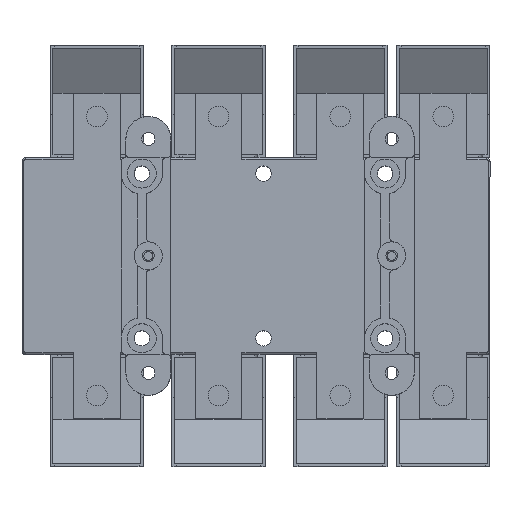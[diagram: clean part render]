
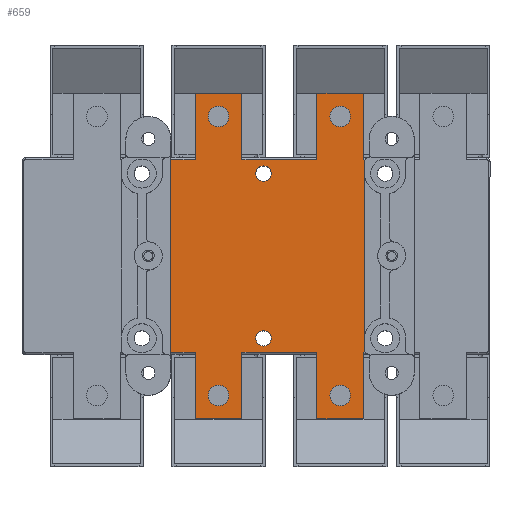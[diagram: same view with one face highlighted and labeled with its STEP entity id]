
A CAD part, top view. The second image highlights one B-rep face of the part: STEP entity #659.
In plain terms, the highlighted planar face has unit normal (0, 0, 1).
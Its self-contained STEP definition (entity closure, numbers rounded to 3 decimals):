
#65=FACE_BOUND('',#1884,.T.);
#66=FACE_BOUND('',#1885,.T.);
#67=FACE_BOUND('',#1886,.T.);
#68=FACE_BOUND('',#1887,.T.);
#69=FACE_BOUND('',#1888,.T.);
#70=FACE_BOUND('',#1889,.T.);
#71=FACE_BOUND('',#1890,.T.);
#373=CIRCLE('',#9405,5.5);
#374=CIRCLE('',#9406,5.5);
#375=CIRCLE('',#9407,5.5);
#376=CIRCLE('',#9408,5.5);
#377=CIRCLE('',#9409,4.1);
#378=CIRCLE('',#9410,4.1);
#379=CIRCLE('',#9411,2.);
#380=CIRCLE('',#9412,2.);
#659=ADVANCED_FACE('',(#65,#66,#67,#68,#69,#70,#71),#1135,.F.);
#1135=PLANE('',#9413);
#1884=EDGE_LOOP('',(#2595));
#1885=EDGE_LOOP('',(#2596));
#1886=EDGE_LOOP('',(#2597));
#1887=EDGE_LOOP('',(#2598));
#1888=EDGE_LOOP('',(#2599));
#1889=EDGE_LOOP('',(#2600));
#1890=EDGE_LOOP('',(#2601,#2602,#2603,#2604,#2605,#2606,#2607,#2608,#2609,
#2610,#2611,#2612,#2613,#2614,#2615,#2616,#2617,#2618,#2619,#2620,#2621,
#2622));
#2595=ORIENTED_EDGE('',*,*,#6125,.T.);
#2596=ORIENTED_EDGE('',*,*,#6126,.T.);
#2597=ORIENTED_EDGE('',*,*,#6127,.T.);
#2598=ORIENTED_EDGE('',*,*,#6128,.T.);
#2599=ORIENTED_EDGE('',*,*,#6129,.F.);
#2600=ORIENTED_EDGE('',*,*,#6130,.F.);
#2601=ORIENTED_EDGE('',*,*,#6131,.F.);
#2602=ORIENTED_EDGE('',*,*,#6132,.T.);
#2603=ORIENTED_EDGE('',*,*,#6133,.F.);
#2604=ORIENTED_EDGE('',*,*,#6134,.F.);
#2605=ORIENTED_EDGE('',*,*,#6135,.F.);
#2606=ORIENTED_EDGE('',*,*,#6136,.T.);
#2607=ORIENTED_EDGE('',*,*,#6137,.T.);
#2608=ORIENTED_EDGE('',*,*,#6138,.T.);
#2609=ORIENTED_EDGE('',*,*,#6139,.T.);
#2610=ORIENTED_EDGE('',*,*,#6140,.T.);
#2611=ORIENTED_EDGE('',*,*,#6141,.T.);
#2612=ORIENTED_EDGE('',*,*,#6142,.T.);
#2613=ORIENTED_EDGE('',*,*,#6143,.T.);
#2614=ORIENTED_EDGE('',*,*,#6144,.T.);
#2615=ORIENTED_EDGE('',*,*,#6145,.T.);
#2616=ORIENTED_EDGE('',*,*,#6146,.T.);
#2617=ORIENTED_EDGE('',*,*,#6147,.T.);
#2618=ORIENTED_EDGE('',*,*,#6148,.T.);
#2619=ORIENTED_EDGE('',*,*,#6149,.F.);
#2620=ORIENTED_EDGE('',*,*,#6150,.F.);
#2621=ORIENTED_EDGE('',*,*,#6151,.F.);
#2622=ORIENTED_EDGE('',*,*,#6152,.T.);
#5233=VERTEX_POINT('',#13041);
#5234=VERTEX_POINT('',#13043);
#5235=VERTEX_POINT('',#13045);
#5236=VERTEX_POINT('',#13047);
#5237=VERTEX_POINT('',#13049);
#5238=VERTEX_POINT('',#13051);
#5239=VERTEX_POINT('',#13053);
#5240=VERTEX_POINT('',#13054);
#5241=VERTEX_POINT('',#13056);
#5242=VERTEX_POINT('',#13058);
#5243=VERTEX_POINT('',#13060);
#5244=VERTEX_POINT('',#13062);
#5245=VERTEX_POINT('',#13064);
#5246=VERTEX_POINT('',#13066);
#5247=VERTEX_POINT('',#13068);
#5248=VERTEX_POINT('',#13070);
#5249=VERTEX_POINT('',#13072);
#5250=VERTEX_POINT('',#13074);
#5251=VERTEX_POINT('',#13076);
#5252=VERTEX_POINT('',#13078);
#5253=VERTEX_POINT('',#13080);
#5254=VERTEX_POINT('',#13082);
#5255=VERTEX_POINT('',#13084);
#5256=VERTEX_POINT('',#13086);
#5257=VERTEX_POINT('',#13088);
#5258=VERTEX_POINT('',#13090);
#5259=VERTEX_POINT('',#13092);
#5260=VERTEX_POINT('',#13094);
#6125=EDGE_CURVE('',#5233,#5233,#373,.T.);
#6126=EDGE_CURVE('',#5234,#5234,#374,.T.);
#6127=EDGE_CURVE('',#5235,#5235,#375,.T.);
#6128=EDGE_CURVE('',#5236,#5236,#376,.T.);
#6129=EDGE_CURVE('',#5237,#5237,#377,.T.);
#6130=EDGE_CURVE('',#5238,#5238,#378,.T.);
#6131=EDGE_CURVE('',#5239,#5240,#7418,.T.);
#6132=EDGE_CURVE('',#5239,#5241,#7419,.T.);
#6133=EDGE_CURVE('',#5242,#5241,#7420,.T.);
#6134=EDGE_CURVE('',#5243,#5242,#7421,.T.);
#6135=EDGE_CURVE('',#5244,#5243,#7422,.T.);
#6136=EDGE_CURVE('',#5244,#5245,#7423,.T.);
#6137=EDGE_CURVE('',#5245,#5246,#7424,.T.);
#6138=EDGE_CURVE('',#5246,#5247,#7425,.T.);
#6139=EDGE_CURVE('',#5247,#5248,#7426,.T.);
#6140=EDGE_CURVE('',#5248,#5249,#7427,.T.);
#6141=EDGE_CURVE('',#5249,#5250,#379,.T.);
#6142=EDGE_CURVE('',#5250,#5251,#7428,.T.);
#6143=EDGE_CURVE('',#5251,#5252,#380,.T.);
#6144=EDGE_CURVE('',#5252,#5253,#7429,.T.);
#6145=EDGE_CURVE('',#5253,#5254,#7430,.T.);
#6146=EDGE_CURVE('',#5254,#5255,#7431,.T.);
#6147=EDGE_CURVE('',#5255,#5256,#7432,.T.);
#6148=EDGE_CURVE('',#5256,#5257,#7433,.T.);
#6149=EDGE_CURVE('',#5258,#5257,#7434,.T.);
#6150=EDGE_CURVE('',#5259,#5258,#7435,.T.);
#6151=EDGE_CURVE('',#5260,#5259,#7436,.T.);
#6152=EDGE_CURVE('',#5260,#5240,#7437,.T.);
#7418=LINE('',#13052,#8435);
#7419=LINE('',#13055,#8436);
#7420=LINE('',#13057,#8437);
#7421=LINE('',#13059,#8438);
#7422=LINE('',#13061,#8439);
#7423=LINE('',#13063,#8440);
#7424=LINE('',#13065,#8441);
#7425=LINE('',#13067,#8442);
#7426=LINE('',#13069,#8443);
#7427=LINE('',#13071,#8444);
#7428=LINE('',#13075,#8445);
#7429=LINE('',#13079,#8446);
#7430=LINE('',#13081,#8447);
#7431=LINE('',#13083,#8448);
#7432=LINE('',#13085,#8449);
#7433=LINE('',#13087,#8450);
#7434=LINE('',#13089,#8451);
#7435=LINE('',#13091,#8452);
#7436=LINE('',#13093,#8453);
#7437=LINE('',#13095,#8454);
#8435=VECTOR('',#10375,1.);
#8436=VECTOR('',#10376,1.);
#8437=VECTOR('',#10377,1.);
#8438=VECTOR('',#10378,1.);
#8439=VECTOR('',#10379,1.);
#8440=VECTOR('',#10380,1.);
#8441=VECTOR('',#10381,1.);
#8442=VECTOR('',#10382,1.);
#8443=VECTOR('',#10383,1.);
#8444=VECTOR('',#10384,1.);
#8445=VECTOR('',#10387,1.);
#8446=VECTOR('',#10390,1.);
#8447=VECTOR('',#10391,1.);
#8448=VECTOR('',#10392,1.);
#8449=VECTOR('',#10393,1.);
#8450=VECTOR('',#10394,1.);
#8451=VECTOR('',#10395,1.);
#8452=VECTOR('',#10396,1.);
#8453=VECTOR('',#10397,1.);
#8454=VECTOR('',#10398,1.);
#9405=AXIS2_PLACEMENT_3D('',#13040,#10363,#10364);
#9406=AXIS2_PLACEMENT_3D('',#13042,#10365,#10366);
#9407=AXIS2_PLACEMENT_3D('',#13044,#10367,#10368);
#9408=AXIS2_PLACEMENT_3D('',#13046,#10369,#10370);
#9409=AXIS2_PLACEMENT_3D('',#13048,#10371,#10372);
#9410=AXIS2_PLACEMENT_3D('',#13050,#10373,#10374);
#9411=AXIS2_PLACEMENT_3D('',#13073,#10385,#10386);
#9412=AXIS2_PLACEMENT_3D('',#13077,#10388,#10389);
#9413=AXIS2_PLACEMENT_3D('',#13096,#10399,#10400);
#10363=DIRECTION('',(0.,0.,-1.));
#10364=DIRECTION('',(-1.,0.,0.));
#10365=DIRECTION('',(0.,0.,-1.));
#10366=DIRECTION('',(-1.,0.,0.));
#10367=DIRECTION('',(0.,0.,-1.));
#10368=DIRECTION('',(-1.,0.,0.));
#10369=DIRECTION('',(0.,0.,-1.));
#10370=DIRECTION('',(-1.,0.,0.));
#10371=DIRECTION('',(0.,0.,1.));
#10372=DIRECTION('',(-1.,0.,0.));
#10373=DIRECTION('',(0.,0.,1.));
#10374=DIRECTION('',(-1.,0.,0.));
#10375=DIRECTION('',(0.,1.,0.));
#10376=DIRECTION('',(1.,0.,0.));
#10377=DIRECTION('',(0.,1.,0.));
#10378=DIRECTION('',(-1.,0.,0.));
#10379=DIRECTION('',(0.,-1.,0.));
#10380=DIRECTION('',(1.,0.,0.));
#10381=DIRECTION('',(0.,-1.,0.));
#10382=DIRECTION('',(1.,0.,0.));
#10383=DIRECTION('',(0.,1.,0.));
#10384=DIRECTION('',(1.,0.,0.));
#10385=DIRECTION('',(0.,0.,-1.));
#10386=DIRECTION('',(-1.,0.,0.));
#10387=DIRECTION('',(0.,1.,0.));
#10388=DIRECTION('',(0.,0.,-1.));
#10389=DIRECTION('',(-1.,0.,0.));
#10390=DIRECTION('',(-1.,0.,0.));
#10391=DIRECTION('',(0.,1.,0.));
#10392=DIRECTION('',(-1.,0.,0.));
#10393=DIRECTION('',(0.,-1.,0.));
#10394=DIRECTION('',(-1.,0.,0.));
#10395=DIRECTION('',(0.,-1.,0.));
#10396=DIRECTION('',(1.,0.,0.));
#10397=DIRECTION('',(0.,1.,0.));
#10398=DIRECTION('',(-1.,0.,0.));
#10399=DIRECTION('',(0.,0.,-1.));
#10400=DIRECTION('',(-1.,0.,0.));
#13040=CARTESIAN_POINT('',(-27.5,74.5,0.));
#13041=CARTESIAN_POINT('',(-33.,74.5,0.));
#13042=CARTESIAN_POINT('',(-92.5,74.5,0.));
#13043=CARTESIAN_POINT('',(-98.,74.5,0.));
#13044=CARTESIAN_POINT('',(-92.5,-74.5,0.));
#13045=CARTESIAN_POINT('',(-98.,-74.5,0.));
#13046=CARTESIAN_POINT('',(-27.5,-74.5,0.));
#13047=CARTESIAN_POINT('',(-33.,-74.5,0.));
#13048=CARTESIAN_POINT('',(-68.5,44.,0.));
#13049=CARTESIAN_POINT('',(-72.6,44.,0.));
#13050=CARTESIAN_POINT('',(-68.5,-44.,0.));
#13051=CARTESIAN_POINT('',(-72.6,-44.,0.));
#13052=CARTESIAN_POINT('',(-118.,62.5,0.));
#13053=CARTESIAN_POINT('',(-118.,-51.5,0.));
#13054=CARTESIAN_POINT('',(-118.,51.5,0.));
#13055=CARTESIAN_POINT('',(-12.5,-51.5,0.));
#13056=CARTESIAN_POINT('',(-105.,-51.5,0.));
#13057=CARTESIAN_POINT('',(-105.,-87.,0.));
#13058=CARTESIAN_POINT('',(-105.,-87.,0.));
#13059=CARTESIAN_POINT('',(-80.,-87.,0.));
#13060=CARTESIAN_POINT('',(-80.,-87.,0.));
#13061=CARTESIAN_POINT('',(-80.,87.,0.));
#13062=CARTESIAN_POINT('',(-80.,-51.5,0.));
#13063=CARTESIAN_POINT('',(-12.5,-51.5,0.));
#13064=CARTESIAN_POINT('',(-40.,-51.5,0.));
#13065=CARTESIAN_POINT('',(-40.,87.,0.));
#13066=CARTESIAN_POINT('',(-40.,-87.,0.));
#13067=CARTESIAN_POINT('',(-40.,-87.,0.));
#13068=CARTESIAN_POINT('',(-15.,-87.,0.));
#13069=CARTESIAN_POINT('',(-15.,-87.,0.));
#13070=CARTESIAN_POINT('',(-15.,-51.5,0.));
#13071=CARTESIAN_POINT('',(-12.5,-51.5,0.));
#13072=CARTESIAN_POINT('',(-14.232,-51.5,0.));
#13073=CARTESIAN_POINT('',(-12.5,-50.5,0.));
#13074=CARTESIAN_POINT('',(-14.5,-50.5,0.));
#13075=CARTESIAN_POINT('',(-14.5,62.5,0.));
#13076=CARTESIAN_POINT('',(-14.5,50.5,0.));
#13077=CARTESIAN_POINT('',(-12.5,50.5,0.));
#13078=CARTESIAN_POINT('',(-14.232,51.5,0.));
#13079=CARTESIAN_POINT('',(-195.5,51.5,0.));
#13080=CARTESIAN_POINT('',(-15.,51.5,0.));
#13081=CARTESIAN_POINT('',(-15.,-87.,0.));
#13082=CARTESIAN_POINT('',(-15.,87.,0.));
#13083=CARTESIAN_POINT('',(-15.,87.,0.));
#13084=CARTESIAN_POINT('',(-40.,87.,0.));
#13085=CARTESIAN_POINT('',(-40.,87.,0.));
#13086=CARTESIAN_POINT('',(-40.,51.5,0.));
#13087=CARTESIAN_POINT('',(-195.5,51.5,0.));
#13088=CARTESIAN_POINT('',(-80.,51.5,0.));
#13089=CARTESIAN_POINT('',(-80.,87.,0.));
#13090=CARTESIAN_POINT('',(-80.,87.,0.));
#13091=CARTESIAN_POINT('',(-105.,87.,0.));
#13092=CARTESIAN_POINT('',(-105.,87.,0.));
#13093=CARTESIAN_POINT('',(-105.,-87.,0.));
#13094=CARTESIAN_POINT('',(-105.,51.5,0.));
#13095=CARTESIAN_POINT('',(-195.5,51.5,0.));
#13096=CARTESIAN_POINT('',(50.5,-50.5,0.));
